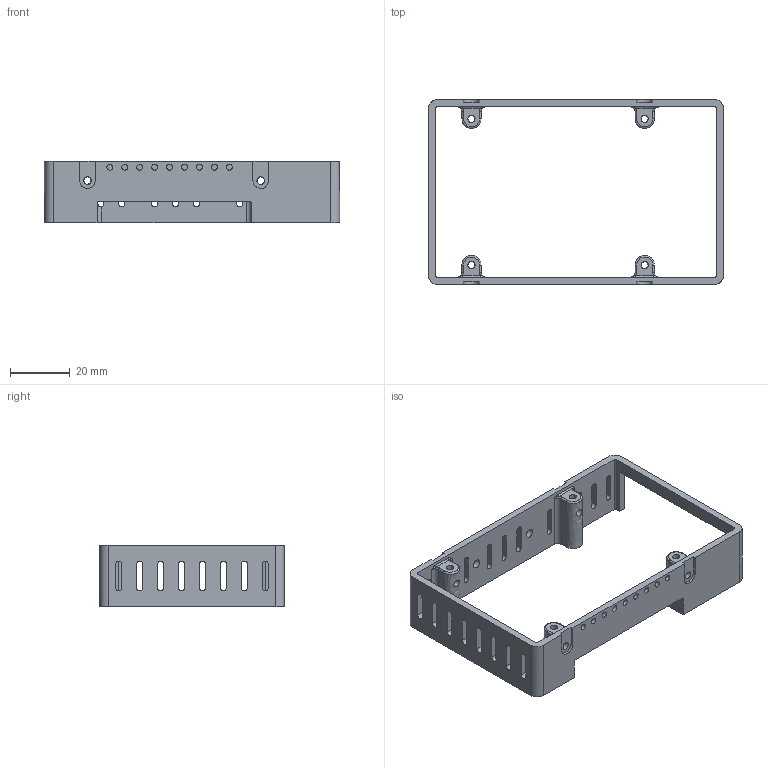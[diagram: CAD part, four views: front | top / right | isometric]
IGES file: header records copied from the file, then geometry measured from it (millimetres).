
Global section: file name: Ring PI 1; native system: unknown; preprocessor: unknown; author: unknown; organization: unknown; date: 20210726.150358; units: millimetre
Bounding box: 98.8 x 61.8 x 20.6 mm (x, y, z)
Volume: 14014.7 mm3; surface area: 14081.6 mm2
Topology: 1 solids, 1 shells, 194 faces, 562 edges, 360 vertices
Faces by surface type: bspline 194
